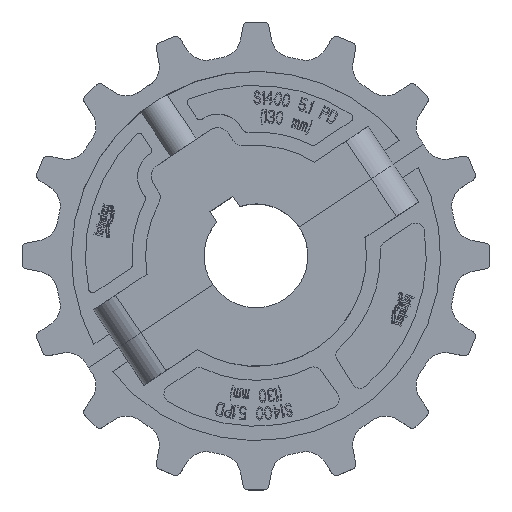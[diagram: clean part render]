
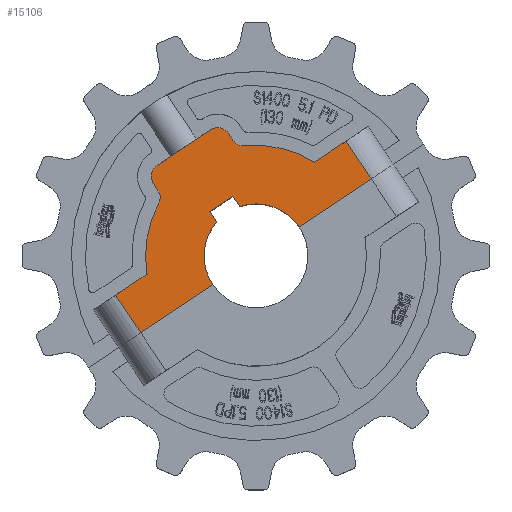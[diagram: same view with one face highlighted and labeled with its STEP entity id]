
A CAD part, top view. The second image highlights one B-rep face of the part: STEP entity #15106.
In plain terms, the highlighted planar face has unit normal (0, 0, 1).
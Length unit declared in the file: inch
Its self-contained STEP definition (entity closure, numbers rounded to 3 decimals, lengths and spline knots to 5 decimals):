
#561=DIRECTION('',(-0.831,-0.556,0.));
#562=VECTOR('',#561,0.315);
#563=CARTESIAN_POINT('',(-0.26189,0.67544,0.99));
#564=LINE('',#563,#562);
#565=DIRECTION('',(0.556,-0.831,0.));
#566=VECTOR('',#565,0.138);
#567=CARTESIAN_POINT('',(-0.5238,0.50044,0.99));
#568=LINE('',#567,#566);
#569=CARTESIAN_POINT('',(0.,0.,0.99));
#570=DIRECTION('',(0.,0.,1.));
#571=DIRECTION('',(-0.757,0.653,0.));
#572=AXIS2_PLACEMENT_3D('',#569,#570,#571);
#574=DIRECTION('',(0.831,0.556,0.));
#575=VECTOR('',#574,0.9845);
#576=CARTESIAN_POINT('',(-1.30956,-0.87502,0.99));
#577=LINE('',#576,#575);
#578=DIRECTION('',(-0.556,0.831,0.));
#579=VECTOR('',#578,0.515);
#580=CARTESIAN_POINT('',(-1.30956,-0.87502,0.99));
#581=LINE('',#580,#579);
#582=DIRECTION('',(-0.831,-0.556,0.));
#583=VECTOR('',#582,0.43054);
#584=CARTESIAN_POINT('',(-1.23771,-0.20762,0.99));
#585=LINE('',#584,#583);
#586=CARTESIAN_POINT('',(0.,0.,0.99));
#587=DIRECTION('',(0.,0.,1.));
#588=DIRECTION('',(-0.882,0.471,0.));
#589=AXIS2_PLACEMENT_3D('',#586,#587,#588);
#591=DIRECTION('',(0.556,-0.831,0.));
#592=VECTOR('',#591,0.09);
#593=CARTESIAN_POINT('',(-1.16448,0.82029,0.99));
#594=LINE('',#593,#592);
#595=CARTESIAN_POINT('',(-1.03976,0.90363,0.99));
#596=DIRECTION('',(0.,0.,1.));
#597=DIRECTION('',(-0.556,0.831,0.));
#598=AXIS2_PLACEMENT_3D('',#595,#596,#597);
#600=DIRECTION('',(-0.831,-0.556,0.));
#601=VECTOR('',#600,0.725);
#602=CARTESIAN_POINT('',(-0.52028,1.43114,0.99));
#603=LINE('',#602,#601);
#604=CARTESIAN_POINT('',(-0.43695,1.30642,0.99));
#605=DIRECTION('',(0.,0.,1.));
#606=DIRECTION('',(0.831,0.556,0.));
#607=AXIS2_PLACEMENT_3D('',#604,#605,#606);
#609=DIRECTION('',(-0.556,0.831,0.));
#610=VECTOR('',#609,0.09);
#611=CARTESIAN_POINT('',(-0.26222,1.31492,0.99));
#612=LINE('',#611,#610);
#613=CARTESIAN_POINT('',(0.,0.,0.99));
#614=DIRECTION('',(0.,0.,1.));
#615=DIRECTION('',(0.53,0.848,0.));
#616=AXIS2_PLACEMENT_3D('',#613,#614,#615);
#618=DIRECTION('',(-0.831,-0.556,0.));
#619=VECTOR('',#618,0.43054);
#620=CARTESIAN_POINT('',(1.02345,1.30323,0.99));
#621=LINE('',#620,#619);
#622=DIRECTION('',(0.556,-0.831,0.));
#623=VECTOR('',#622,0.515);
#624=CARTESIAN_POINT('',(1.02345,1.30323,0.99));
#625=LINE('',#624,#623);
#626=DIRECTION('',(0.831,0.556,0.));
#627=VECTOR('',#626,0.9845);
#628=CARTESIAN_POINT('',(0.49098,0.32806,0.99));
#629=LINE('',#628,#627);
#630=CARTESIAN_POINT('',(0.,0.,0.99));
#631=DIRECTION('',(0.,0.,1.));
#632=DIRECTION('',(0.831,0.556,0.));
#633=AXIS2_PLACEMENT_3D('',#630,#631,#632);
#635=DIRECTION('',(-0.556,0.831,0.));
#636=VECTOR('',#635,0.138);
#637=CARTESIAN_POINT('',(-0.18522,0.5607,0.99));
#638=LINE('',#637,#636);
#2004=CARTESIAN_POINT('',(-0.1375,1.39826,0.99));
#2005=DIRECTION('',(0.,0.,-1.));
#2006=DIRECTION('',(0.098,-0.995,0.));
#2007=AXIS2_PLACEMENT_3D('',#2004,#2005,#2006);
#2040=CARTESIAN_POINT('',(-1.2392,0.66212,0.99));
#2041=DIRECTION('',(0.,0.,-1.));
#2042=DIRECTION('',(0.831,0.556,0.));
#2043=AXIS2_PLACEMENT_3D('',#2040,#2041,#2042);
#11118=CARTESIAN_POINT('',(-1.1069,0.59144,0.99));
#11120=VERTEX_POINT('',#11118);
#11123=CARTESIAN_POINT('',(-1.11448,0.74546,0.99));
#11124=VERTEX_POINT('',#11123);
#11134=CARTESIAN_POINT('',(-0.26222,1.31492,0.99));
#11136=VERTEX_POINT('',#11134);
#11139=CARTESIAN_POINT('',(-0.12282,1.24898,0.99));
#11140=VERTEX_POINT('',#11139);
#11149=CARTESIAN_POINT('',(-0.31222,1.38975,0.99));
#11151=VERTEX_POINT('',#11149);
#11153=CARTESIAN_POINT('',(-0.52028,1.43114,0.99));
#11154=VERTEX_POINT('',#11153);
#11157=CARTESIAN_POINT('',(-1.1231,1.02835,0.99));
#11159=VERTEX_POINT('',#11157);
#11161=CARTESIAN_POINT('',(-1.16448,0.82029,0.99));
#11162=VERTEX_POINT('',#11161);
#11215=CARTESIAN_POINT('',(-1.23771,-0.20762,0.99));
#11216=VERTEX_POINT('',#11215);
#11219=CARTESIAN_POINT('',(0.66547,1.06404,0.99));
#11220=VERTEX_POINT('',#11219);
#11233=CARTESIAN_POINT('',(-1.59568,-0.44682,0.99));
#11234=VERTEX_POINT('',#11233);
#11235=CARTESIAN_POINT('',(1.02345,1.30323,0.99));
#11236=VERTEX_POINT('',#11235);
#11317=CARTESIAN_POINT('',(-1.30956,-0.87502,0.99));
#11318=VERTEX_POINT('',#11317);
#11319=CARTESIAN_POINT('',(1.30956,0.87502,0.99));
#11320=VERTEX_POINT('',#11319);
#14543=CARTESIAN_POINT('',(-0.26189,0.67544,0.99));
#14544=CARTESIAN_POINT('',(-0.5238,0.50044,0.99));
#14545=VERTEX_POINT('',#14543);
#14546=VERTEX_POINT('',#14544);
#14547=CARTESIAN_POINT('',(-0.44714,0.38569,0.99));
#14548=VERTEX_POINT('',#14547);
#14549=CARTESIAN_POINT('',(-0.49098,-0.32806,0.99));
#14550=VERTEX_POINT('',#14549);
#14551=CARTESIAN_POINT('',(0.49098,0.32806,0.99));
#14552=CARTESIAN_POINT('',(-0.18522,0.5607,0.99));
#14553=VERTEX_POINT('',#14551);
#14554=VERTEX_POINT('',#14552);
#15067=CARTESIAN_POINT('',(0.,0.,0.99));
#15068=DIRECTION('',(0.,0.,1.));
#15069=DIRECTION('',(1.,0.,0.));
#15070=AXIS2_PLACEMENT_3D('',#15067,#15068,#15069);
#15071=PLANE('',#15070);
#15072=ORIENTED_EDGE('',*,*,#15013,.T.);
#15073=ORIENTED_EDGE('',*,*,#15034,.T.);
#15074=ORIENTED_EDGE('',*,*,#15047,.T.);
#15075=ORIENTED_EDGE('',*,*,#14748,.F.);
#15077=ORIENTED_EDGE('',*,*,#15076,.T.);
#15078=ORIENTED_EDGE('',*,*,#14853,.F.);
#15080=ORIENTED_EDGE('',*,*,#15079,.F.);
#15082=ORIENTED_EDGE('',*,*,#15081,.F.);
#15084=ORIENTED_EDGE('',*,*,#15083,.F.);
#15086=ORIENTED_EDGE('',*,*,#15085,.F.);
#15088=ORIENTED_EDGE('',*,*,#15087,.F.);
#15090=ORIENTED_EDGE('',*,*,#15089,.F.);
#15092=ORIENTED_EDGE('',*,*,#15091,.F.);
#15094=ORIENTED_EDGE('',*,*,#15093,.F.);
#15096=ORIENTED_EDGE('',*,*,#15095,.F.);
#15097=ORIENTED_EDGE('',*,*,#14899,.F.);
#15099=ORIENTED_EDGE('',*,*,#15098,.T.);
#15100=ORIENTED_EDGE('',*,*,#14772,.F.);
#15101=ORIENTED_EDGE('',*,*,#15061,.T.);
#15103=ORIENTED_EDGE('',*,*,#15102,.T.);
#15104=EDGE_LOOP('',(#15072,#15073,#15074,#15075,#15077,#15078,#15080,#15082,
#15084,#15086,#15088,#15090,#15092,#15094,#15096,#15097,#15099,#15100,#15101,
#15103));
#15105=FACE_OUTER_BOUND('',#15104,.F.);
#15106=ADVANCED_FACE('',(#15105),#15071,.T.);
#573=CIRCLE('',#572,0.5905);
#590=CIRCLE('',#589,1.255);
#599=CIRCLE('',#598,0.15);
#608=CIRCLE('',#607,0.15);
#617=CIRCLE('',#616,1.255);
#634=CIRCLE('',#633,0.5905);
#2008=CIRCLE('',#2007,0.15);
#2044=CIRCLE('',#2043,0.15);
#14748=EDGE_CURVE('',#11318,#14550,#577,.T.);
#14772=EDGE_CURVE('',#14553,#11320,#629,.T.);
#14853=EDGE_CURVE('',#11216,#11234,#585,.T.);
#14899=EDGE_CURVE('',#11236,#11220,#621,.T.);
#15013=EDGE_CURVE('',#14545,#14546,#564,.T.);
#15034=EDGE_CURVE('',#14546,#14548,#568,.T.);
#15047=EDGE_CURVE('',#14548,#14550,#573,.T.);
#15061=EDGE_CURVE('',#14553,#14554,#634,.T.);
#15076=EDGE_CURVE('',#11318,#11234,#581,.T.);
#15079=EDGE_CURVE('',#11120,#11216,#590,.T.);
#15081=EDGE_CURVE('',#11124,#11120,#2044,.T.);
#15083=EDGE_CURVE('',#11162,#11124,#594,.T.);
#15085=EDGE_CURVE('',#11159,#11162,#599,.T.);
#15087=EDGE_CURVE('',#11154,#11159,#603,.T.);
#15089=EDGE_CURVE('',#11151,#11154,#608,.T.);
#15091=EDGE_CURVE('',#11136,#11151,#612,.T.);
#15093=EDGE_CURVE('',#11140,#11136,#2008,.T.);
#15095=EDGE_CURVE('',#11220,#11140,#617,.T.);
#15098=EDGE_CURVE('',#11236,#11320,#625,.T.);
#15102=EDGE_CURVE('',#14554,#14545,#638,.T.);
